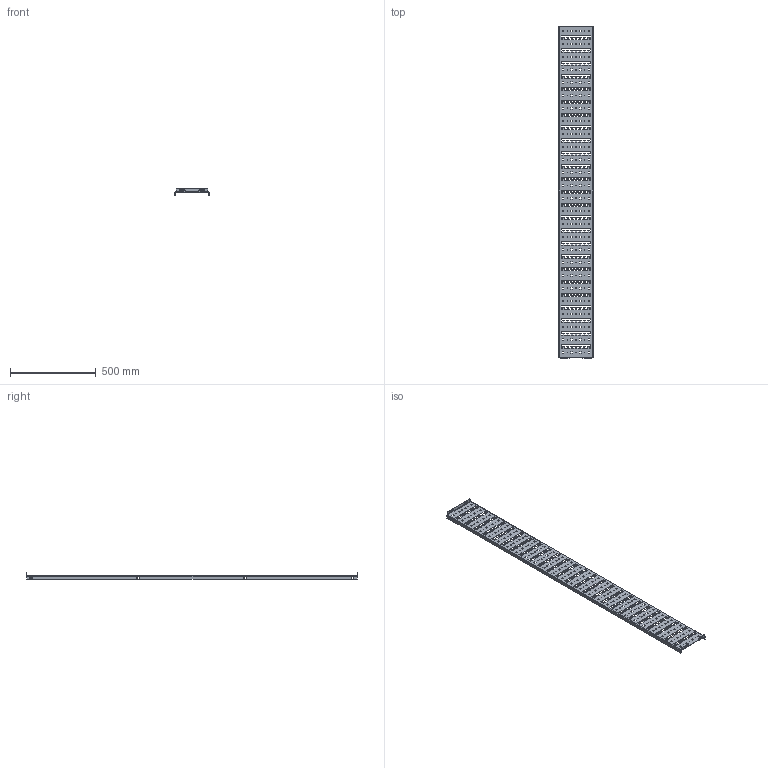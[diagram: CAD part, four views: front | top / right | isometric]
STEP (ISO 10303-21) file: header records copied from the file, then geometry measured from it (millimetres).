
FILE_DESCRIPTION (( 'STEP AP214' ), '1' );
FILE_NAME ('CR 200.20 Êàáåëüíàÿ ïàíåëü.STEP', '2023-11-13T07:46:54', ( '' ), ( '' ), 'SwSTEP 2.0', 'SolidWorks 2022', '' );
FILE_SCHEMA (( 'AUTOMOTIVE_DESIGN' ));
Length unit declared in the file: millimetre
Products named in the file (1): CR 200.20 Кабельная панель
Bounding box: 200 x 1936.6 x 38 mm (x, y, z)
Volume: 743973.3 mm3; surface area: 795400 mm2
Topology: 1 solids, 1 shells, 2908 faces, 8706 edges, 5800 vertices
Faces by surface type: plane 1968, cylinder 940
Entity records: 98604 total; most frequent: CARTESIAN_POINT 17415, ORIENTED_EDGE 17412, DIRECTION 16404, EDGE_CURVE 8706, VECTOR 6826, LINE 6826, VERTEX_POINT 5800, AXIS2_PLACEMENT_3D 4789
